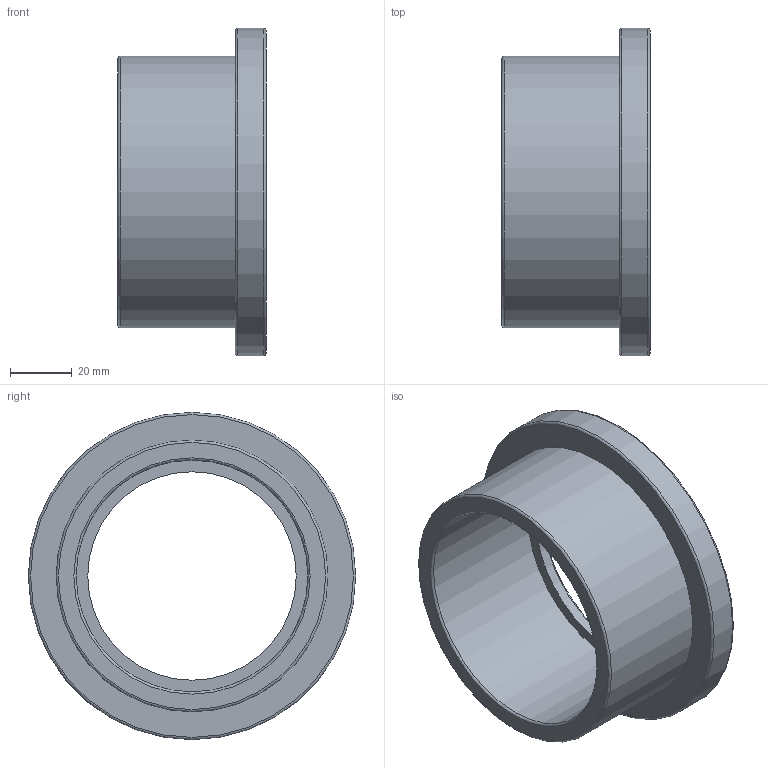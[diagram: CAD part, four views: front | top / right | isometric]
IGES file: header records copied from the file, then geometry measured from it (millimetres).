
Global section: file name: 055100075.ipt; native system: Autodesk Inventor 2015; preprocessor: unknown; author: KIM; date: 20180927.115426; units: millimetre
Bounding box: 48 x 106 x 106 mm (x, y, z)
Volume: 110500.4 mm3; surface area: 35095.8 mm2
Topology: 1 solids, 1 shells, 13 faces, 36 edges, 27 vertices
Faces by surface type: revolution 7, plane 4, cylinder 2
Full cylindrical faces by diameter (mm): 88 x1, 106 x1
